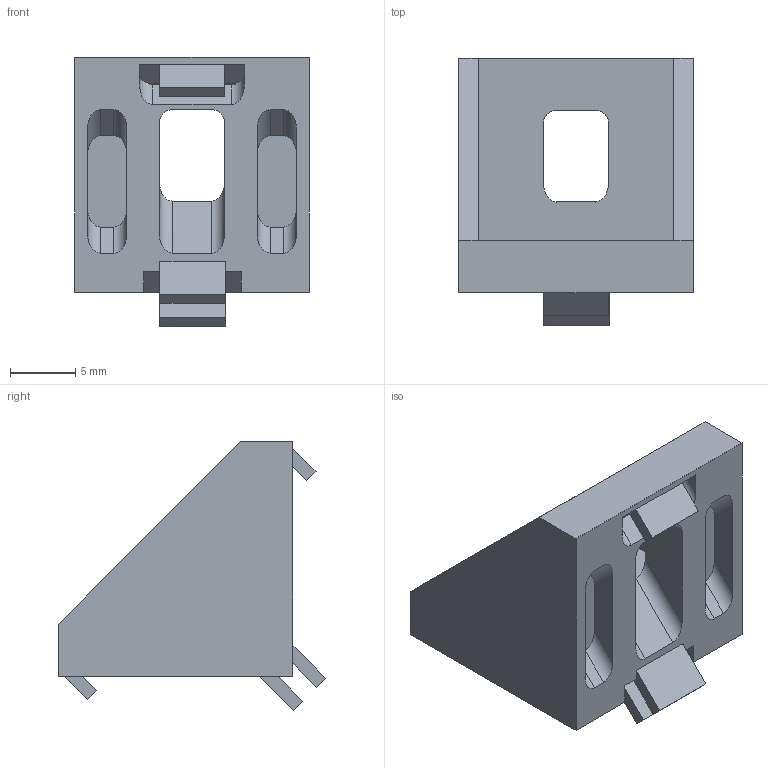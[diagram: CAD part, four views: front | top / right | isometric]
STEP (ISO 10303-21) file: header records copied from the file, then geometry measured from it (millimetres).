
FILE_DESCRIPTION (( 'STEP AP203' ), '1' );
FILE_NAME ('1033.STEP', '2016-03-27T14:34:45', ( '' ), ( '' ), 'SwSTEP 2.0', 'SolidWorks 2014', '' );
FILE_SCHEMA (( 'CONFIG_CONTROL_DESIGN' ));
Length unit declared in the file: millimetre
Products named in the file (1): 1033
Bounding box: 18 x 20.52 x 20.63 mm (x, y, z)
Volume: 2050.5 mm3; surface area: 2270 mm2
Topology: 1 solids, 1 shells, 101 faces, 271 edges, 178 vertices
Faces by surface type: plane 73, cylinder 28
Entity records: 3178 total; most frequent: CARTESIAN_POINT 695, ORIENTED_EDGE 542, DIRECTION 439, EDGE_CURVE 271, LINE 211, VECTOR 211, VERTEX_POINT 178, AXIS2_PLACEMENT_3D 114
